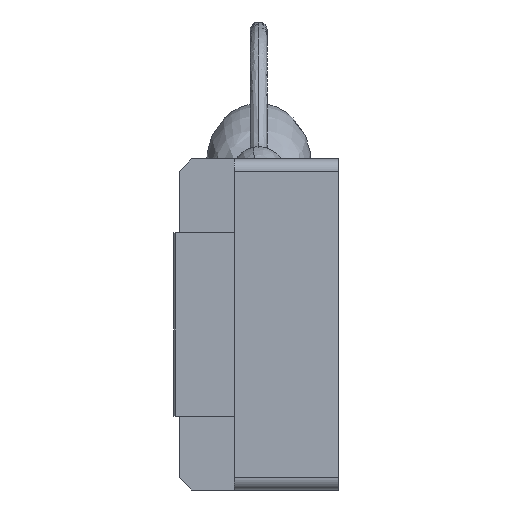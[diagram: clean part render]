
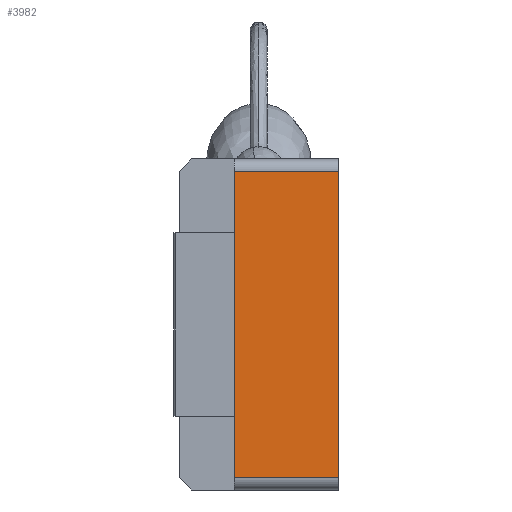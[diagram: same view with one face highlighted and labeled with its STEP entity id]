
A CAD part, left-side view. The second image highlights one B-rep face of the part: STEP entity #3982.
In plain terms, the highlighted planar face has unit normal (-1, 0, 0).
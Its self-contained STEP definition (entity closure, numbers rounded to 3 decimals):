
#157 = ORIENTED_EDGE ( 'NONE', *, *, #7478, .F. ) ;
#193 = PLANE ( 'NONE',  #797 ) ;
#201 = EDGE_CURVE ( 'NONE', #3738, #7723, #2379, .T. ) ;
#509 = FACE_OUTER_BOUND ( 'NONE', #5521, .T. ) ;
#520 = CARTESIAN_POINT ( 'NONE',  ( -94.5, 17., -25. ) ) ;
#526 = ORIENTED_EDGE ( 'NONE', *, *, #3434, .T. ) ;
#797 = AXIS2_PLACEMENT_3D ( 'NONE', #7715, #879, #5244 ) ;
#879 = DIRECTION ( 'NONE',  ( 1., 0., 0. ) ) ;
#918 = CARTESIAN_POINT ( 'NONE',  ( -94.5, 17., -25. ) ) ;
#1517 = CARTESIAN_POINT ( 'NONE',  ( -94.5, 0., -25. ) ) ;
#1874 = CARTESIAN_POINT ( 'NONE',  ( -94.5, 0., -27. ) ) ;
#2198 = VECTOR ( 'NONE', #8120, 1000. ) ;
#2224 = ORIENTED_EDGE ( 'NONE', *, *, #7764, .T. ) ;
#2322 = ORIENTED_EDGE ( 'NONE', *, *, #201, .T. ) ;
#2379 = LINE ( 'NONE', #1874, #2198 ) ;
#2419 = LINE ( 'NONE', #4043, #4079 ) ;
#3155 = DIRECTION ( 'NONE',  ( 0., 1., 0. ) ) ;
#3211 = LINE ( 'NONE', #520, #5921 ) ;
#3332 = VECTOR ( 'NONE', #3155, 1000. ) ;
#3434 = EDGE_CURVE ( 'NONE', #7723, #7871, #3512, .T. ) ;
#3512 = LINE ( 'NONE', #6861, #3332 ) ;
#3730 = CARTESIAN_POINT ( 'NONE',  ( -94.5, 17., 25. ) ) ;
#3738 = VERTEX_POINT ( 'NONE', #1517 ) ;
#3982 = ADVANCED_FACE ( 'NONE', ( #509 ), #193, .F. ) ;
#4043 = CARTESIAN_POINT ( 'NONE',  ( -94.5, 17., -27. ) ) ;
#4079 = VECTOR ( 'NONE', #6490, 1000. ) ;
#4855 = CARTESIAN_POINT ( 'NONE',  ( -94.5, 0., 25. ) ) ;
#5244 = DIRECTION ( 'NONE',  ( 0., 0., -1. ) ) ;
#5521 = EDGE_LOOP ( 'NONE', ( #157, #2224, #2322, #526 ) ) ;
#5921 = VECTOR ( 'NONE', #6150, 1000. ) ;
#6150 = DIRECTION ( 'NONE',  ( 0., -1., 0. ) ) ;
#6490 = DIRECTION ( 'NONE',  ( 0., 0., 1. ) ) ;
#6861 = CARTESIAN_POINT ( 'NONE',  ( -94.5, 17., 25. ) ) ;
#6966 = VERTEX_POINT ( 'NONE', #918 ) ;
#7478 = EDGE_CURVE ( 'NONE', #6966, #7871, #2419, .T. ) ;
#7715 = CARTESIAN_POINT ( 'NONE',  ( -94.5, 17., -27. ) ) ;
#7723 = VERTEX_POINT ( 'NONE', #4855 ) ;
#7764 = EDGE_CURVE ( 'NONE', #6966, #3738, #3211, .T. ) ;
#7871 = VERTEX_POINT ( 'NONE', #3730 ) ;
#8120 = DIRECTION ( 'NONE',  ( 0., 0., 1. ) ) ;
